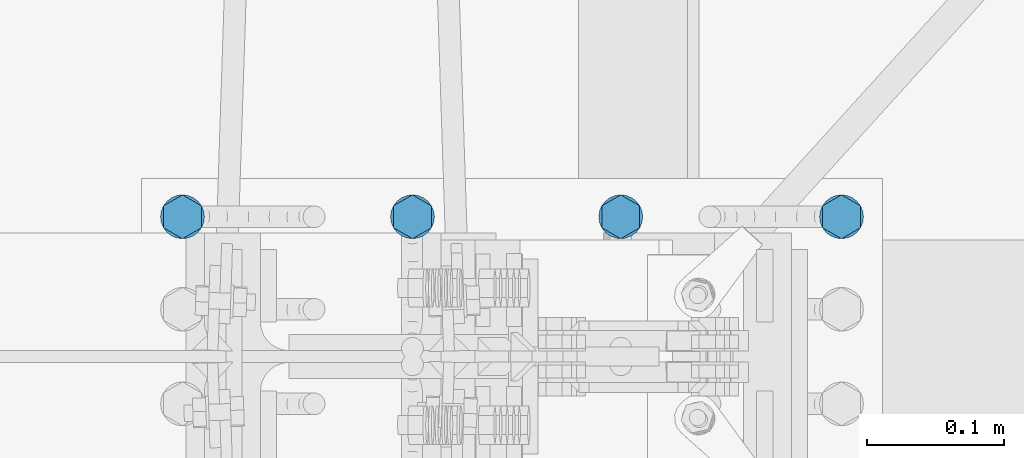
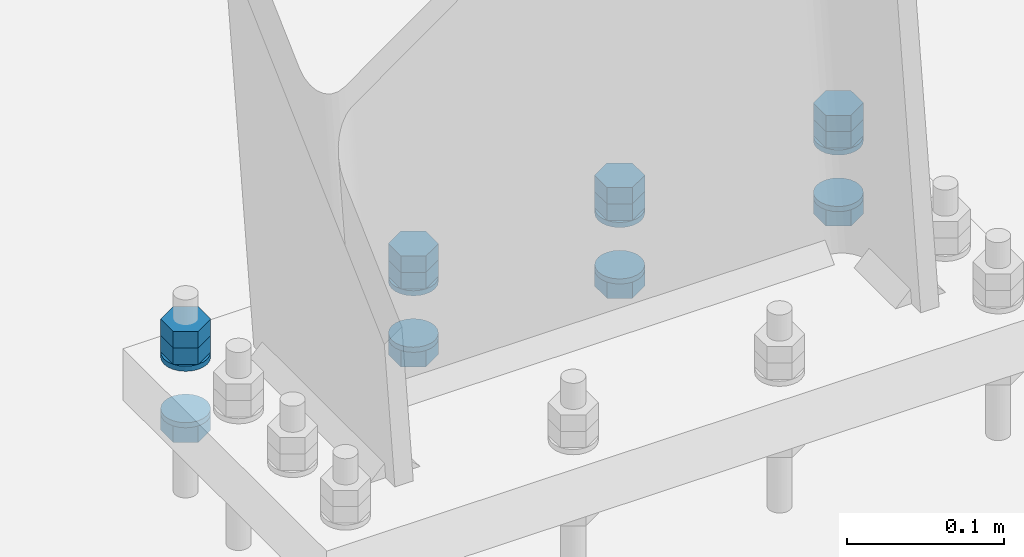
# One storey, part 63 of 72: 20 mechanical fasteners.
"""IFC4 building model written with IfcOpenShell, lengths in metres."""

from ifc_helpers import new_model, si_unit, frame, origin_with_axes, place, context, project, spatial, polyline, outline, extrude, type_object, element, save


model = new_model("IFC4")

# Units and contexts
model_context = context("Model", 3, precision=1e-05, world=origin_with_axes())
ifc_project = project(units=[si_unit("LENGTHUNIT", "METRE"), si_unit("AREAUNIT", "SQUARE_METRE"), si_unit("VOLUMEUNIT", "CUBIC_METRE"), si_unit("MASSUNIT", "GRAM", prefix="KILO"), si_unit("TIMEUNIT", "SECOND"), si_unit("PLANEANGLEUNIT", "RADIAN"), si_unit("SOLIDANGLEUNIT", "STERADIAN"), si_unit("THERMODYNAMICTEMPERATUREUNIT", "DEGREE_CELSIUS")], contexts=[model_context])

# Site, building, storey
placement_1 = place(None, origin_with_axes())
site = spatial("IfcSite", under=ifc_project, at=placement_1, Name="Italia", CompositionType="ELEMENT")
building = spatial("IfcBuilding", under=site, at=placement_1, Name="Pensilina", CompositionType="ELEMENT")
storey = spatial("IfcBuildingStorey", under=building, at=placement_1, Name="Storey 0", CompositionType="ELEMENT", Elevation=0.0)

# Mechanical fasteners
mechanical_fastener_type_1 = type_object("IfcMechanicalFastenerType", Name="Collegamento 0004_-199", PredefinedType="BOLT")
placement_2 = place(placement_1, origin_with_axes())
mechanical_fastener_1_placement = place(placement_2, origin_with_axes())
element("IfcMechanicalFastener", 1, at=mechanical_fastener_1_placement, inside=storey, type_object=mechanical_fastener_type_1, Name="Collegamento 0004_-199", NominalDiameter=0.0159997, context=model_context, shape_type="SweptSolid", body=[
    extrude(outline(polyline([(0.0, 0.0, 0.0), (0.0159998, 0.0, 0.0), (0.0240002, -0.0138564, 0.0), (0.0159998, -0.0277128, 0.0), (0.0, -0.0277128, 0.0), (-0.00799942, -0.0138564, 0.0), (0.0, 0.0, 0.0)])), frame((0.674373, 15.934, 0.107708), z_axis=(0.0, 0.0, 1.0), x_axis=(0.0, 1.0, 0.0)), (0.0, 0.0, 1.0), 0.0128),
])
mechanical_fastener_type_2 = type_object("IfcMechanicalFastenerType", Name="Collegamento 0004_-199", PredefinedType="BOLT")
mechanical_fastener_2_placement = place(placement_2, origin_with_axes())
element("IfcMechanicalFastener", 2, at=mechanical_fastener_2_placement, inside=storey, type_object=mechanical_fastener_type_2, Name="Collegamento 0004_-199", NominalDiameter=0.0159997, context=model_context, shape_type="SweptSolid", body=[
    extrude(outline(polyline([(0.0, 0.0, 0.0), (0.0159998, 0.0, 0.0), (0.0240002, -0.0138564, 0.0), (0.0159998, -0.0277128, 0.0), (0.0, -0.0277128, 0.0), (-0.00799942, -0.0138564, 0.0), (0.0, 0.0, 0.0)])), frame((0.674373, 15.934, 0.120508), z_axis=(0.0, 0.0, 1.0), x_axis=(0.0, 1.0, 0.0)), (0.0, 0.0, 1.0), 0.0128),
])
mechanical_fastener_type_3 = type_object("IfcMechanicalFastenerType", Name="Collegamento 0004_-199", PredefinedType="BOLT")
mechanical_fastener_3_placement = place(placement_2, origin_with_axes())
element("IfcMechanicalFastener", 3, at=mechanical_fastener_3_placement, inside=storey, type_object=mechanical_fastener_type_3, Name="Collegamento 0004_-199", NominalDiameter=0.0159997, context=model_context, shape_type="SweptSolid", body=[
    extrude(outline(polyline([(0.0, 0.0, 0.0), (0.0159998, 0.0, 0.0), (0.0240002, -0.0138564, 0.0), (0.0159998, -0.0277128, 0.0), (0.0, -0.0277128, 0.0), (-0.00799942, -0.0138564, 0.0), (0.0, 0.0, 0.0)])), frame((0.674373, 15.934, 0.0469081), z_axis=(0.0, 0.0, 1.0), x_axis=(0.0, 1.0, 0.0)), (0.0, 0.0, 1.0), 0.0128),
])
mechanical_fastener_type_4 = type_object("IfcMechanicalFastenerType", Name="Collegamento 0004_-199", PredefinedType="BOLT")
mechanical_fastener_4_placement = place(placement_2, origin_with_axes())
element("IfcMechanicalFastener", 4, at=mechanical_fastener_4_placement, inside=storey, type_object=mechanical_fastener_type_4, Name="Collegamento 0004_-199", NominalDiameter=0.032, context=model_context, shape_type="SweptSolid", body=[
    extrude(outline(polyline([(0.0, 0.0, 0.0), (-0.000544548, -0.00414109, 0.0), (-0.00214386, -0.00800002, 0.0), (-0.00468636, -0.0113137, 0.0), (-0.00799942, -0.0138564, 0.0), (-0.0118589, -0.0154548, 0.0), (-0.0159998, -0.016, 0.0), (-0.0201406, -0.0154548, 0.0), (-0.0240002, -0.0138564, 0.0), (-0.0273132, -0.0113137, 0.0), (-0.0298557, -0.00800002, 0.0), (-0.031455, -0.00414109, 0.0), (-0.0319996, 0.0, 0.0), (-0.031455, 0.00414109, 0.0), (-0.0298557, 0.00800002, 0.0), (-0.0273132, 0.0113137, 0.0), (-0.0240002, 0.0138564, 0.0), (-0.0201406, 0.0154548, 0.0), (-0.0159998, 0.016, 0.0), (-0.0118589, 0.0154548, 0.0), (-0.00799942, 0.0138564, 0.0), (-0.00468636, 0.0113137, 0.0), (-0.00214386, 0.00800002, 0.0), (-0.000544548, 0.00414109, 0.0), (0.0, 0.0, 0.0)])), frame((0.68823, 15.958, 0.103708), z_axis=(0.0, 0.0, 1.0), x_axis=(0.0, 1.0, 0.0)), (0.0, 0.0, 1.0), 0.004),
])
mechanical_fastener_type_5 = type_object("IfcMechanicalFastenerType", Name="Collegamento 0004_-199", PredefinedType="BOLT")
mechanical_fastener_5_placement = place(placement_2, origin_with_axes())
element("IfcMechanicalFastener", 5, at=mechanical_fastener_5_placement, inside=storey, type_object=mechanical_fastener_type_5, Name="Collegamento 0004_-199", NominalDiameter=0.032, context=model_context, shape_type="SweptSolid", body=[
    extrude(outline(polyline([(0.0, 0.0, 0.0), (-0.000544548, -0.00414109, 0.0), (-0.00214386, -0.00800002, 0.0), (-0.00468636, -0.0113137, 0.0), (-0.00799942, -0.0138564, 0.0), (-0.0118589, -0.0154548, 0.0), (-0.0159998, -0.016, 0.0), (-0.0201406, -0.0154548, 0.0), (-0.0240002, -0.0138564, 0.0), (-0.0273132, -0.0113137, 0.0), (-0.0298557, -0.00800002, 0.0), (-0.031455, -0.00414109, 0.0), (-0.0319996, 0.0, 0.0), (-0.031455, 0.00414109, 0.0), (-0.0298557, 0.00800002, 0.0), (-0.0273132, 0.0113137, 0.0), (-0.0240002, 0.0138564, 0.0), (-0.0201406, 0.0154548, 0.0), (-0.0159998, 0.016, 0.0), (-0.0118589, 0.0154548, 0.0), (-0.00799942, 0.0138564, 0.0), (-0.00468636, 0.0113137, 0.0), (-0.00214386, 0.00800002, 0.0), (-0.000544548, 0.00414109, 0.0), (0.0, 0.0, 0.0)])), frame((0.68823, 15.958, 0.0597081), z_axis=(0.0, 0.0, 1.0), x_axis=(0.0, 1.0, 0.0)), (0.0, 0.0, 1.0), 0.004),
])
mechanical_fastener_type_6 = type_object("IfcMechanicalFastenerType", Name="Collegamento 0004_-199", PredefinedType="BOLT")
mechanical_fastener_6_placement = place(placement_2, origin_with_axes())
element("IfcMechanicalFastener", 6, at=mechanical_fastener_6_placement, inside=storey, type_object=mechanical_fastener_type_6, Name="Collegamento 0004_-199", NominalDiameter=0.0159997, context=model_context, shape_type="SweptSolid", body=[
    extrude(outline(polyline([(0.0, 0.0, 0.0), (0.0159998, 0.0, 0.0), (0.0240002, -0.0138564, 0.0), (0.0159998, -0.0277128, 0.0), (0.0, -0.0277128, 0.0), (-0.00799942, -0.0138564, 0.0), (0.0, 0.0, 0.0)])), frame((0.84219, 15.934, 0.107708), z_axis=(0.0, 0.0, 1.0), x_axis=(0.0, 1.0, 0.0)), (0.0, 0.0, 1.0), 0.0128),
])
mechanical_fastener_type_7 = type_object("IfcMechanicalFastenerType", Name="Collegamento 0004_-199", PredefinedType="BOLT")
mechanical_fastener_7_placement = place(placement_2, origin_with_axes())
element("IfcMechanicalFastener", 7, at=mechanical_fastener_7_placement, inside=storey, type_object=mechanical_fastener_type_7, Name="Collegamento 0004_-199", NominalDiameter=0.0159997, context=model_context, shape_type="SweptSolid", body=[
    extrude(outline(polyline([(0.0, 0.0, 0.0), (0.0159998, 0.0, 0.0), (0.0240002, -0.0138564, 0.0), (0.0159998, -0.0277128, 0.0), (0.0, -0.0277128, 0.0), (-0.00799942, -0.0138564, 0.0), (0.0, 0.0, 0.0)])), frame((0.84219, 15.934, 0.120508), z_axis=(0.0, 0.0, 1.0), x_axis=(0.0, 1.0, 0.0)), (0.0, 0.0, 1.0), 0.0128),
])
mechanical_fastener_type_8 = type_object("IfcMechanicalFastenerType", Name="Collegamento 0004_-199", PredefinedType="BOLT")
mechanical_fastener_8_placement = place(placement_2, origin_with_axes())
element("IfcMechanicalFastener", 8, at=mechanical_fastener_8_placement, inside=storey, type_object=mechanical_fastener_type_8, Name="Collegamento 0004_-199", NominalDiameter=0.0159997, context=model_context, shape_type="SweptSolid", body=[
    extrude(outline(polyline([(0.0, 0.0, 0.0), (0.0159998, 0.0, 0.0), (0.0240002, -0.0138564, 0.0), (0.0159998, -0.0277128, 0.0), (0.0, -0.0277128, 0.0), (-0.00799942, -0.0138564, 0.0), (0.0, 0.0, 0.0)])), frame((0.84219, 15.934, 0.0469081), z_axis=(0.0, 0.0, 1.0), x_axis=(0.0, 1.0, 0.0)), (0.0, 0.0, 1.0), 0.0128),
])
mechanical_fastener_type_9 = type_object("IfcMechanicalFastenerType", Name="Collegamento 0004_-199", PredefinedType="BOLT")
mechanical_fastener_9_placement = place(placement_2, origin_with_axes())
element("IfcMechanicalFastener", 9, at=mechanical_fastener_9_placement, inside=storey, type_object=mechanical_fastener_type_9, Name="Collegamento 0004_-199", NominalDiameter=0.032, context=model_context, shape_type="SweptSolid", body=[
    extrude(outline(polyline([(0.0, 0.0, 0.0), (-0.000544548, -0.00414109, 0.0), (-0.00214386, -0.00800002, 0.0), (-0.00468636, -0.0113137, 0.0), (-0.00799942, -0.0138564, 0.0), (-0.0118589, -0.0154548, 0.0), (-0.0159998, -0.016, 0.0), (-0.0201406, -0.0154548, 0.0), (-0.0240002, -0.0138564, 0.0), (-0.0273132, -0.0113137, 0.0), (-0.0298557, -0.00800002, 0.0), (-0.031455, -0.00414109, 0.0), (-0.0319996, 0.0, 0.0), (-0.031455, 0.00414109, 0.0), (-0.0298557, 0.00800002, 0.0), (-0.0273132, 0.0113137, 0.0), (-0.0240002, 0.0138564, 0.0), (-0.0201406, 0.0154548, 0.0), (-0.0159998, 0.016, 0.0), (-0.0118589, 0.0154548, 0.0), (-0.00799942, 0.0138564, 0.0), (-0.00468636, 0.0113137, 0.0), (-0.00214386, 0.00800002, 0.0), (-0.000544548, 0.00414109, 0.0), (0.0, 0.0, 0.0)])), frame((0.856047, 15.958, 0.103708), z_axis=(0.0, 0.0, 1.0), x_axis=(0.0, 1.0, 0.0)), (0.0, 0.0, 1.0), 0.004),
])
mechanical_fastener_type_10 = type_object("IfcMechanicalFastenerType", Name="Collegamento 0004_-199", PredefinedType="BOLT")
mechanical_fastener_10_placement = place(placement_2, origin_with_axes())
element("IfcMechanicalFastener", 10, at=mechanical_fastener_10_placement, inside=storey, type_object=mechanical_fastener_type_10, Name="Collegamento 0004_-199", NominalDiameter=0.032, context=model_context, shape_type="SweptSolid", body=[
    extrude(outline(polyline([(0.0, 0.0, 0.0), (-0.000544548, -0.00414109, 0.0), (-0.00214386, -0.00800002, 0.0), (-0.00468636, -0.0113137, 0.0), (-0.00799942, -0.0138564, 0.0), (-0.0118589, -0.0154548, 0.0), (-0.0159998, -0.016, 0.0), (-0.0201406, -0.0154548, 0.0), (-0.0240002, -0.0138564, 0.0), (-0.0273132, -0.0113137, 0.0), (-0.0298557, -0.00800002, 0.0), (-0.031455, -0.00414109, 0.0), (-0.0319996, 0.0, 0.0), (-0.031455, 0.00414109, 0.0), (-0.0298557, 0.00800002, 0.0), (-0.0273132, 0.0113137, 0.0), (-0.0240002, 0.0138564, 0.0), (-0.0201406, 0.0154548, 0.0), (-0.0159998, 0.016, 0.0), (-0.0118589, 0.0154548, 0.0), (-0.00799942, 0.0138564, 0.0), (-0.00468636, 0.0113137, 0.0), (-0.00214386, 0.00800002, 0.0), (-0.000544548, 0.00414109, 0.0), (0.0, 0.0, 0.0)])), frame((0.856047, 15.958, 0.0597081), z_axis=(0.0, 0.0, 1.0), x_axis=(0.0, 1.0, 0.0)), (0.0, 0.0, 1.0), 0.004),
])
mechanical_fastener_type_11 = type_object("IfcMechanicalFastenerType", Name="Collegamento 0004_-199", PredefinedType="BOLT")
mechanical_fastener_11_placement = place(placement_2, origin_with_axes())
element("IfcMechanicalFastener", 11, at=mechanical_fastener_11_placement, inside=storey, type_object=mechanical_fastener_type_11, Name="Collegamento 0004_-199", NominalDiameter=0.0159997, context=model_context, shape_type="SweptSolid", body=[
    extrude(outline(polyline([(0.0, 0.0, 0.0), (0.0159998, 0.0, 0.0), (0.0240002, -0.0138565, 0.0), (0.0159998, -0.0277129, 0.0), (0.0, -0.0277129, 0.0), (-0.00799942, -0.0138565, 0.0), (0.0, 0.0, 0.0)])), frame((0.99419, 15.934, 0.107708), z_axis=(0.0, 0.0, 1.0), x_axis=(0.0, 1.0, 0.0)), (0.0, 0.0, 1.0), 0.0128),
])
mechanical_fastener_type_12 = type_object("IfcMechanicalFastenerType", Name="Collegamento 0004_-199", PredefinedType="BOLT")
mechanical_fastener_12_placement = place(placement_2, origin_with_axes())
element("IfcMechanicalFastener", 12, at=mechanical_fastener_12_placement, inside=storey, type_object=mechanical_fastener_type_12, Name="Collegamento 0004_-199", NominalDiameter=0.0159997, context=model_context, shape_type="SweptSolid", body=[
    extrude(outline(polyline([(0.0, 0.0, 0.0), (0.0159998, 0.0, 0.0), (0.0240002, -0.0138565, 0.0), (0.0159998, -0.0277129, 0.0), (0.0, -0.0277129, 0.0), (-0.00799942, -0.0138565, 0.0), (0.0, 0.0, 0.0)])), frame((0.99419, 15.934, 0.120508), z_axis=(0.0, 0.0, 1.0), x_axis=(0.0, 1.0, 0.0)), (0.0, 0.0, 1.0), 0.0128),
])
mechanical_fastener_type_13 = type_object("IfcMechanicalFastenerType", Name="Collegamento 0004_-199", PredefinedType="BOLT")
mechanical_fastener_13_placement = place(placement_2, origin_with_axes())
element("IfcMechanicalFastener", 13, at=mechanical_fastener_13_placement, inside=storey, type_object=mechanical_fastener_type_13, Name="Collegamento 0004_-199", NominalDiameter=0.0159997, context=model_context, shape_type="SweptSolid", body=[
    extrude(outline(polyline([(0.0, 0.0, 0.0), (0.0159998, 0.0, 0.0), (0.0240002, -0.0138565, 0.0), (0.0159998, -0.0277129, 0.0), (0.0, -0.0277129, 0.0), (-0.00799942, -0.0138565, 0.0), (0.0, 0.0, 0.0)])), frame((0.99419, 15.934, 0.0469081), z_axis=(0.0, 0.0, 1.0), x_axis=(0.0, 1.0, 0.0)), (0.0, 0.0, 1.0), 0.0128),
])
mechanical_fastener_type_14 = type_object("IfcMechanicalFastenerType", Name="Collegamento 0004_-199", PredefinedType="BOLT")
mechanical_fastener_14_placement = place(placement_2, origin_with_axes())
element("IfcMechanicalFastener", 14, at=mechanical_fastener_14_placement, inside=storey, type_object=mechanical_fastener_type_14, Name="Collegamento 0004_-199", NominalDiameter=0.032, context=model_context, shape_type="SweptSolid", body=[
    extrude(outline(polyline([(0.0, 0.0, 0.0), (-0.000544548, -0.00414109, 0.0), (-0.00214386, -0.00800002, 0.0), (-0.00468636, -0.0113137, 0.0), (-0.00799942, -0.0138564, 0.0), (-0.0118589, -0.0154548, 0.0), (-0.0159998, -0.016, 0.0), (-0.0201406, -0.0154548, 0.0), (-0.0240002, -0.0138564, 0.0), (-0.0273132, -0.0113137, 0.0), (-0.0298557, -0.00800002, 0.0), (-0.031455, -0.00414109, 0.0), (-0.0319996, 0.0, 0.0), (-0.031455, 0.00414109, 0.0), (-0.0298557, 0.00800002, 0.0), (-0.0273132, 0.0113137, 0.0), (-0.0240002, 0.0138564, 0.0), (-0.0201406, 0.0154548, 0.0), (-0.0159998, 0.016, 0.0), (-0.0118589, 0.0154548, 0.0), (-0.00799942, 0.0138564, 0.0), (-0.00468636, 0.0113137, 0.0), (-0.00214386, 0.00800002, 0.0), (-0.000544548, 0.00414109, 0.0), (0.0, 0.0, 0.0)])), frame((1.00805, 15.958, 0.103708), z_axis=(0.0, 0.0, 1.0), x_axis=(0.0, 1.0, 0.0)), (0.0, 0.0, 1.0), 0.004),
])
mechanical_fastener_type_15 = type_object("IfcMechanicalFastenerType", Name="Collegamento 0004_-199", PredefinedType="BOLT")
mechanical_fastener_15_placement = place(placement_2, origin_with_axes())
element("IfcMechanicalFastener", 15, at=mechanical_fastener_15_placement, inside=storey, type_object=mechanical_fastener_type_15, Name="Collegamento 0004_-199", NominalDiameter=0.032, context=model_context, shape_type="SweptSolid", body=[
    extrude(outline(polyline([(0.0, 0.0, 0.0), (-0.000544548, -0.00414109, 0.0), (-0.00214386, -0.00800002, 0.0), (-0.00468636, -0.0113137, 0.0), (-0.00799942, -0.0138564, 0.0), (-0.0118589, -0.0154548, 0.0), (-0.0159998, -0.016, 0.0), (-0.0201406, -0.0154548, 0.0), (-0.0240002, -0.0138564, 0.0), (-0.0273132, -0.0113137, 0.0), (-0.0298557, -0.00800002, 0.0), (-0.031455, -0.00414109, 0.0), (-0.0319996, 0.0, 0.0), (-0.031455, 0.00414109, 0.0), (-0.0298557, 0.00800002, 0.0), (-0.0273132, 0.0113137, 0.0), (-0.0240002, 0.0138564, 0.0), (-0.0201406, 0.0154548, 0.0), (-0.0159998, 0.016, 0.0), (-0.0118589, 0.0154548, 0.0), (-0.00799942, 0.0138564, 0.0), (-0.00468636, 0.0113137, 0.0), (-0.00214386, 0.00800002, 0.0), (-0.000544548, 0.00414109, 0.0), (0.0, 0.0, 0.0)])), frame((1.00805, 15.958, 0.0597081), z_axis=(0.0, 0.0, 1.0), x_axis=(0.0, 1.0, 0.0)), (0.0, 0.0, 1.0), 0.004),
])
mechanical_fastener_type_16 = type_object("IfcMechanicalFastenerType", Name="Collegamento 0004_-199", PredefinedType="BOLT")
mechanical_fastener_16_placement = place(placement_2, origin_with_axes())
element("IfcMechanicalFastener", 16, at=mechanical_fastener_16_placement, inside=storey, type_object=mechanical_fastener_type_16, Name="Collegamento 0004_-199", NominalDiameter=0.0159997, context=model_context, shape_type="SweptSolid", body=[
    extrude(outline(polyline([(0.0, 0.0, 0.0), (0.0159998, 0.0, 0.0), (0.0240002, -0.0138564, 0.0), (0.0159998, -0.0277128, 0.0), (0.0, -0.0277128, 0.0), (-0.00799942, -0.0138564, 0.0), (0.0, 0.0, 0.0)])), frame((1.15527, 15.934, 0.107708), z_axis=(0.0, 0.0, 1.0), x_axis=(0.0, 1.0, 0.0)), (0.0, 0.0, 1.0), 0.0128),
])
mechanical_fastener_type_17 = type_object("IfcMechanicalFastenerType", Name="Collegamento 0004_-199", PredefinedType="BOLT")
mechanical_fastener_17_placement = place(placement_2, origin_with_axes())
element("IfcMechanicalFastener", 17, at=mechanical_fastener_17_placement, inside=storey, type_object=mechanical_fastener_type_17, Name="Collegamento 0004_-199", NominalDiameter=0.0159997, context=model_context, shape_type="SweptSolid", body=[
    extrude(outline(polyline([(0.0, 0.0, 0.0), (0.0159998, 0.0, 0.0), (0.0240002, -0.0138564, 0.0), (0.0159998, -0.0277128, 0.0), (0.0, -0.0277128, 0.0), (-0.00799942, -0.0138564, 0.0), (0.0, 0.0, 0.0)])), frame((1.15527, 15.934, 0.120508), z_axis=(0.0, 0.0, 1.0), x_axis=(0.0, 1.0, 0.0)), (0.0, 0.0, 1.0), 0.0128),
])
mechanical_fastener_type_18 = type_object("IfcMechanicalFastenerType", Name="Collegamento 0004_-199", PredefinedType="BOLT")
mechanical_fastener_18_placement = place(placement_2, origin_with_axes())
element("IfcMechanicalFastener", 18, at=mechanical_fastener_18_placement, inside=storey, type_object=mechanical_fastener_type_18, Name="Collegamento 0004_-199", NominalDiameter=0.0159997, context=model_context, shape_type="SweptSolid", body=[
    extrude(outline(polyline([(0.0, 0.0, 0.0), (0.0159998, 0.0, 0.0), (0.0240002, -0.0138564, 0.0), (0.0159998, -0.0277128, 0.0), (0.0, -0.0277128, 0.0), (-0.00799942, -0.0138564, 0.0), (0.0, 0.0, 0.0)])), frame((1.15527, 15.934, 0.0469081), z_axis=(0.0, 0.0, 1.0), x_axis=(0.0, 1.0, 0.0)), (0.0, 0.0, 1.0), 0.0128),
])
mechanical_fastener_type_19 = type_object("IfcMechanicalFastenerType", Name="Collegamento 0004_-199", PredefinedType="BOLT")
mechanical_fastener_19_placement = place(placement_2, origin_with_axes())
element("IfcMechanicalFastener", 19, at=mechanical_fastener_19_placement, inside=storey, type_object=mechanical_fastener_type_19, Name="Collegamento 0004_-199", NominalDiameter=0.032, context=model_context, shape_type="SweptSolid", body=[
    extrude(outline(polyline([(0.0, 0.0, 0.0), (-0.000544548, -0.00414109, 0.0), (-0.00214386, -0.00800002, 0.0), (-0.00468636, -0.0113137, 0.0), (-0.00799942, -0.0138564, 0.0), (-0.0118589, -0.0154548, 0.0), (-0.0159998, -0.016, 0.0), (-0.0201406, -0.0154548, 0.0), (-0.0240002, -0.0138564, 0.0), (-0.0273132, -0.0113137, 0.0), (-0.0298557, -0.00800002, 0.0), (-0.031455, -0.00414109, 0.0), (-0.0319996, 0.0, 0.0), (-0.031455, 0.00414109, 0.0), (-0.0298557, 0.00800002, 0.0), (-0.0273132, 0.0113137, 0.0), (-0.0240002, 0.0138564, 0.0), (-0.0201406, 0.0154548, 0.0), (-0.0159998, 0.016, 0.0), (-0.0118589, 0.0154548, 0.0), (-0.00799942, 0.0138564, 0.0), (-0.00468636, 0.0113137, 0.0), (-0.00214386, 0.00800002, 0.0), (-0.000544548, 0.00414109, 0.0), (0.0, 0.0, 0.0)])), frame((1.16913, 15.958, 0.103708), z_axis=(0.0, 0.0, 1.0), x_axis=(0.0, 1.0, 0.0)), (0.0, 0.0, 1.0), 0.004),
])
mechanical_fastener_type_20 = type_object("IfcMechanicalFastenerType", Name="Collegamento 0004_-199", PredefinedType="BOLT")
mechanical_fastener_20_placement = place(placement_2, origin_with_axes())
element("IfcMechanicalFastener", 20, at=mechanical_fastener_20_placement, inside=storey, type_object=mechanical_fastener_type_20, Name="Collegamento 0004_-199", NominalDiameter=0.032, context=model_context, shape_type="SweptSolid", body=[
    extrude(outline(polyline([(0.0, 0.0, 0.0), (-0.000544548, -0.00414109, 0.0), (-0.00214386, -0.00800002, 0.0), (-0.00468636, -0.0113137, 0.0), (-0.00799942, -0.0138564, 0.0), (-0.0118589, -0.0154548, 0.0), (-0.0159998, -0.016, 0.0), (-0.0201406, -0.0154548, 0.0), (-0.0240002, -0.0138564, 0.0), (-0.0273132, -0.0113137, 0.0), (-0.0298557, -0.00800002, 0.0), (-0.031455, -0.00414109, 0.0), (-0.0319996, 0.0, 0.0), (-0.031455, 0.00414109, 0.0), (-0.0298557, 0.00800002, 0.0), (-0.0273132, 0.0113137, 0.0), (-0.0240002, 0.0138564, 0.0), (-0.0201406, 0.0154548, 0.0), (-0.0159998, 0.016, 0.0), (-0.0118589, 0.0154548, 0.0), (-0.00799942, 0.0138564, 0.0), (-0.00468636, 0.0113137, 0.0), (-0.00214386, 0.00800002, 0.0), (-0.000544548, 0.00414109, 0.0), (0.0, 0.0, 0.0)])), frame((1.16913, 15.958, 0.0597081), z_axis=(0.0, 0.0, 1.0), x_axis=(0.0, 1.0, 0.0)), (0.0, 0.0, 1.0), 0.004),
])

save(model, "model.ifc")
